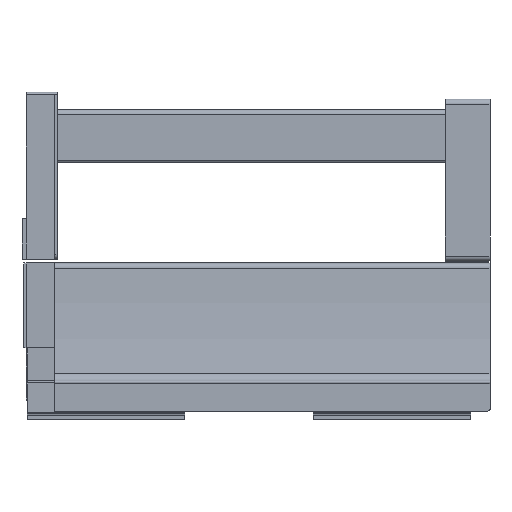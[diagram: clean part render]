
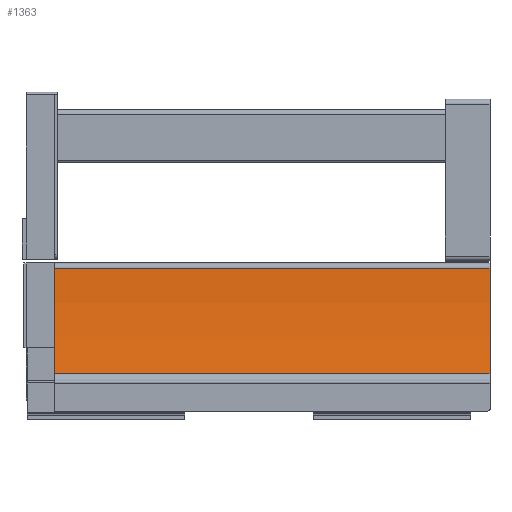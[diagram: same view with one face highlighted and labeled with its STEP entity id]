
A CAD part, left-side view. The second image highlights one B-rep face of the part: STEP entity #1363.
In plain terms, the highlighted cylindrical face has radius 350 mm (diameter 700 mm), a partial arc.
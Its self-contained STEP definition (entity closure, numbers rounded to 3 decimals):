
#596 = DIRECTION ( 'NONE',  ( 0., -1., 0. ) ) ;
#598 = DIRECTION ( 'NONE',  ( -1., 0., 0. ) ) ;
#607 = CARTESIAN_POINT ( 'NONE',  ( -369.665, 248.8, 58.86 ) ) ;
#608 = DIRECTION ( 'NONE',  ( -1., 0., 0. ) ) ;
#609 = DIRECTION ( 'NONE',  ( 0., -1., 0. ) ) ;
#615 = CARTESIAN_POINT ( 'NONE',  ( -369.665, 0., 58.86 ) ) ;
#667 = CARTESIAN_POINT ( 'NONE',  ( -19.88, 265., 46.603 ) ) ;
#900 = DIRECTION ( 'NONE',  ( 0., -1., 0. ) ) ;
#928 = CARTESIAN_POINT ( 'NONE',  ( -27.279, 265., -13.745 ) ) ;
#935 = DIRECTION ( 'NONE',  ( 0., -1., 0. ) ) ;
#1363 = ADVANCED_FACE ( 'NONE', ( #3658 ), #3660, .F. ) ;
#1694 = VERTEX_POINT ( 'NONE', #3055 ) ;
#1868 = VERTEX_POINT ( 'NONE', #3190 ) ;
#1887 = DIRECTION ( 'NONE',  ( 1., 0., 0. ) ) ;
#1888 = DIRECTION ( 'NONE',  ( 0., -1., 0. ) ) ;
#1889 = CARTESIAN_POINT ( 'NONE',  ( -369.665, 265., 58.86 ) ) ;
#1951 = VERTEX_POINT ( 'NONE', #2989 ) ;
#1952 = VERTEX_POINT ( 'NONE', #2990 ) ;
#2374 = EDGE_CURVE ( 'NONE', #1694, #1952, #3802, .T. ) ;
#2383 = AXIS2_PLACEMENT_3D ( 'NONE', #1889, #1888, #1887 ) ;
#2491 = EDGE_CURVE ( 'NONE', #1868, #1694, #3925, .T. ) ;
#2496 = EDGE_CURVE ( 'NONE', #1951, #1952, #3933, .T. ) ;
#2534 = AXIS2_PLACEMENT_3D ( 'NONE', #607, #609, #608 ) ;
#2589 = EDGE_CURVE ( 'NONE', #1868, #1951, #4032, .T. ) ;
#2813 = AXIS2_PLACEMENT_3D ( 'NONE', #615, #596, #598 ) ;
#2989 = CARTESIAN_POINT ( 'NONE',  ( -27.279, 0., -13.745 ) ) ;
#2990 = CARTESIAN_POINT ( 'NONE',  ( -19.88, 0., 46.603 ) ) ;
#3055 = CARTESIAN_POINT ( 'NONE',  ( -19.88, 248.8, 46.603 ) ) ;
#3190 = CARTESIAN_POINT ( 'NONE',  ( -27.279, 248.8, -13.745 ) ) ;
#3332 = EDGE_LOOP ( 'NONE', ( #3457, #3458, #3459, #3460 ) ) ;
#3457 = ORIENTED_EDGE ( 'NONE', *, *, #2491, .F. ) ;
#3458 = ORIENTED_EDGE ( 'NONE', *, *, #2589, .T. ) ;
#3459 = ORIENTED_EDGE ( 'NONE', *, *, #2496, .T. ) ;
#3460 = ORIENTED_EDGE ( 'NONE', *, *, #2374, .F. ) ;
#3658 = FACE_OUTER_BOUND ( 'NONE', #3332, .T. ) ;
#3660 = CYLINDRICAL_SURFACE ( 'NONE', #2383, 350. ) ;
#3802 = LINE ( 'NONE', #667, #3807 ) ;
#3807 = VECTOR ( 'NONE', #900, 1000. ) ;
#3925 = CIRCLE ( 'NONE', #2534, 350. ) ;
#3933 = CIRCLE ( 'NONE', #2813, 350. ) ;
#4032 = LINE ( 'NONE', #928, #4050 ) ;
#4050 = VECTOR ( 'NONE', #935, 1000. ) ;
